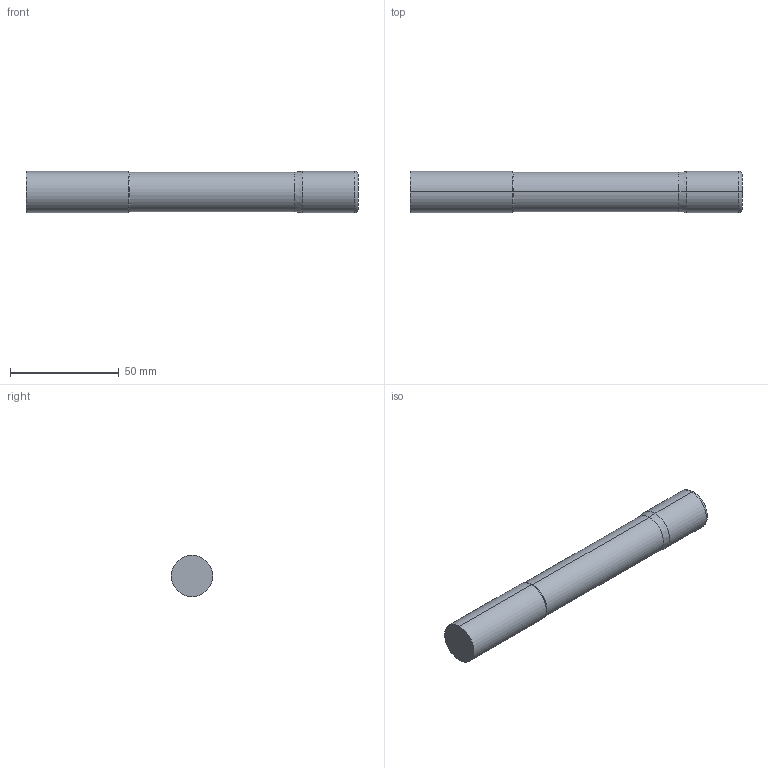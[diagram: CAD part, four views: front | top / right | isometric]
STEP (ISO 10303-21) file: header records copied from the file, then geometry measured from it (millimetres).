
FILE_DESCRIPTION (( 'STEP AP214' ), '1' );
FILE_NAME ('SSIRNX50750-060.STEP', '2025-05-28T19:58:24', ( '' ), ( '' ), 'SwSTEP 2.0', 'SolidWorks 2023', '' );
FILE_SCHEMA (( 'AUTOMOTIVE_DESIGN' ));
Length unit declared in the file: inch
Products named in the file (3): SSI5 Imperial SHANK ONLY_SSIRNX50750-060; SSI5 Imperial LOC ONLY_SSIRNX50750-060; SSIRNX50750-060
Assembly tree (2 placements, depth 2):
  SSIRNX50750-060
    SSI5 Imperial LOC ONLY_SSIRNX50750-060
    SSI5 Imperial SHANK ONLY_SSIRNX50750-060
Bounding box: 152.4 x 19.05 x 19.05 mm (x, y, z)
Volume: 41383 mm3; surface area: 10011.5 mm2
Topology: 2 solids, 2 shells, 16 faces, 28 edges, 16 vertices
Faces by surface type: cylinder 6, plane 4, cone 4, torus 2
Entity records: 562 total; most frequent: DIRECTION 88, CARTESIAN_POINT 65, ORIENTED_EDGE 56, AXIS2_PLACEMENT_3D 39, EDGE_CURVE 28, CIRCLE 18, EDGE_LOOP 16, ADVANCED_FACE 16
